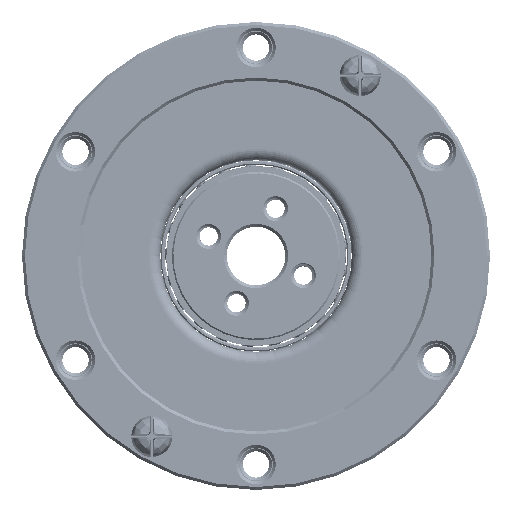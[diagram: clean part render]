
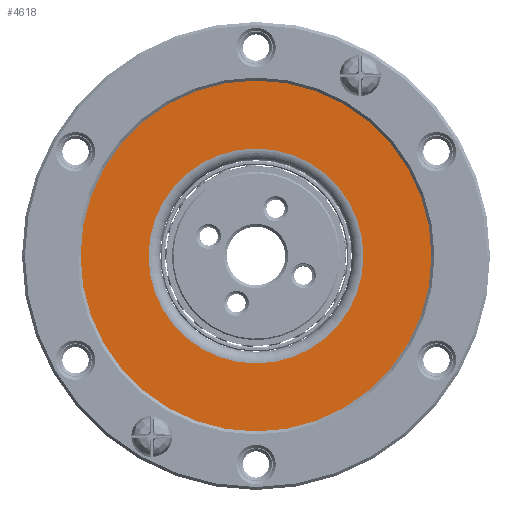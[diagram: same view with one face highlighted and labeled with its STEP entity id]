
A CAD part, left-side view. The second image highlights one B-rep face of the part: STEP entity #4618.
In plain terms, the highlighted planar face has unit normal (-1, 0, 0) as drawn and (0, -1, 0) by its records, which use the part's own axes.
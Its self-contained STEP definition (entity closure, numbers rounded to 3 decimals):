
#2946=PLANE('',#25353);
#3115=FACE_BOUND('',#7649,.T.);
#3116=FACE_BOUND('',#7650,.T.);
#4618=ADVANCED_FACE('',(#3115,#3116),#2946,.T.);
#7649=EDGE_LOOP('',(#15812));
#7650=EDGE_LOOP('',(#15813));
#8359=CIRCLE('',#25350,7.35);
#8360=CIRCLE('',#25352,12.);
#15812=ORIENTED_EDGE('',*,*,#21080,.T.);
#15813=ORIENTED_EDGE('',*,*,#21079,.F.);
#17934=VERTEX_POINT('',#103285);
#17935=VERTEX_POINT('',#103288);
#21079=EDGE_CURVE('',#17934,#17934,#8359,.T.);
#21080=EDGE_CURVE('',#17935,#17935,#8360,.T.);
#25350=AXIS2_PLACEMENT_3D('',#103284,#30183,#30184);
#25352=AXIS2_PLACEMENT_3D('',#103287,#30187,#30188);
#25353=AXIS2_PLACEMENT_3D('',#103289,#30189,#30190);
#30183=DIRECTION('',(0.,-1.,0.));
#30184=DIRECTION('',(0.,0.,-1.));
#30187=DIRECTION('',(0.,-1.,0.));
#30188=DIRECTION('',(0.,0.,-1.));
#30189=DIRECTION('',(0.,-1.,0.));
#30190=DIRECTION('',(0.,0.,-1.));
#103284=CARTESIAN_POINT('',(0.,-9.1,0.));
#103285=CARTESIAN_POINT('',(0.,-9.1,-7.35));
#103287=CARTESIAN_POINT('',(0.,-9.1,0.));
#103288=CARTESIAN_POINT('',(0.,-9.1,-12.));
#103289=CARTESIAN_POINT('',(7.35,-9.1,0.));
